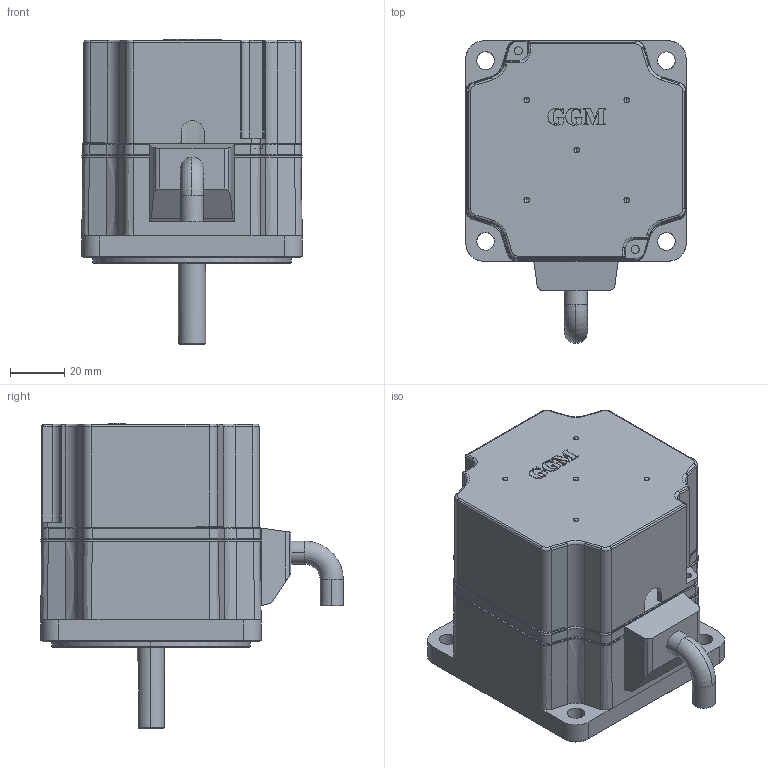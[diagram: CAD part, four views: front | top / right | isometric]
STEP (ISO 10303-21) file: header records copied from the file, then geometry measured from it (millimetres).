
FILE_DESCRIPTION (( 'STEP AP214' ), '1' );
FILE_NAME ('F Series 60w_brake_S.STEP', '2023-01-09T07:34:41', ( '' ), ( '' ), 'SwSTEP 2.0', 'SolidWorks 2022', '' );
FILE_SCHEMA (( 'AUTOMOTIVE_DESIGN' ));
Length unit declared in the file: millimetre
Products named in the file (4): BRAKE COVER 譆謙.stp; B Series 60w_brake_S.stp; F Series 60w_brake_S; K8BS60N﹤.stp
Assembly tree (3 placements, depth 3):
  F Series 60w_brake_S
    B Series 60w_brake_S.stp
      K8BS60N﹤.stp
      BRAKE COVER 譆謙.stp
Bounding box: 81.1 x 111.3 x 112.3 mm (x, y, z)
Volume: 309943.6 mm3; surface area: 72500.8 mm2
Topology: 11 solids, 11 shells, 520 faces, 1336 edges, 842 vertices
Faces by surface type: cylinder 208, plane 197, bspline 50, cone 39, torus 26
Entity records: 18758 total; most frequent: CARTESIAN_POINT 6982, ORIENTED_EDGE 2644, DIRECTION 1897, EDGE_CURVE 1322, VERTEX_POINT 842, AXIS2_PLACEMENT_3D 701, B_SPLINE_CURVE_WITH_KNOTS 603, EDGE_LOOP 550
